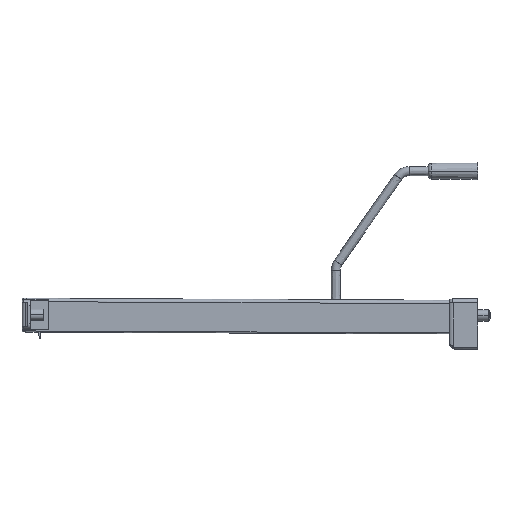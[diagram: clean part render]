
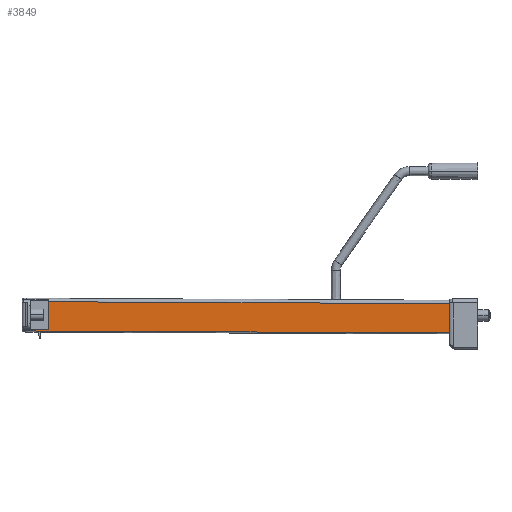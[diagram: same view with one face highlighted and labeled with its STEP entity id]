
A CAD part, left-side view. The second image highlights one B-rep face of the part: STEP entity #3849.
In plain terms, the highlighted planar face has unit normal (-1, 0, 0).
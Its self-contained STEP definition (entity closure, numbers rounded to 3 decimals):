
#776 = PLANE ( 'NONE',  #2564 ) ;
#778 = CARTESIAN_POINT ( 'NONE',  ( -5.25, 434.248, -13.647 ) ) ;
#780 = DIRECTION ( 'NONE',  ( 1., 0., 0. ) ) ;
#781 = DIRECTION ( 'NONE',  ( 0., 0., 1. ) ) ;
#1230 = LINE ( 'NONE', #2877, #1231 ) ;
#1231 = VECTOR ( 'NONE', #2878, 1000. ) ;
#1232 = LINE ( 'NONE', #2879, #1233 ) ;
#1233 = VECTOR ( 'NONE', #2880, 1000. ) ;
#1234 = LINE ( 'NONE', #2881, #1235 ) ;
#1235 = VECTOR ( 'NONE', #2882, 1000. ) ;
#1236 = LINE ( 'NONE', #2883, #1237 ) ;
#1237 = VECTOR ( 'NONE', #2884, 1000. ) ;
#1238 = LINE ( 'NONE', #2885, #1239 ) ;
#1239 = VECTOR ( 'NONE', #2886, 1000. ) ;
#1240 = LINE ( 'NONE', #2887, #1241 ) ;
#1241 = VECTOR ( 'NONE', #2888, 1000. ) ;
#1683 = FACE_OUTER_BOUND ( 'NONE', #5389, .T. ) ;
#2033 = CARTESIAN_POINT ( 'NONE',  ( -5.25, 380.9, 12.111 ) ) ;
#2040 = CARTESIAN_POINT ( 'NONE',  ( -5.25, 25., 10.5 ) ) ;
#2047 = CARTESIAN_POINT ( 'NONE',  ( -5.25, 25., -15.5 ) ) ;
#2093 = ORIENTED_EDGE ( 'NONE', *, *, #2148, .T. ) ;
#2094 = ORIENTED_EDGE ( 'NONE', *, *, #2147, .T. ) ;
#2095 = ORIENTED_EDGE ( 'NONE', *, *, #2146, .F. ) ;
#2096 = ORIENTED_EDGE ( 'NONE', *, *, #2145, .T. ) ;
#2097 = ORIENTED_EDGE ( 'NONE', *, *, #2144, .T. ) ;
#2098 = ORIENTED_EDGE ( 'NONE', *, *, #2143, .F. ) ;
#2143 = EDGE_CURVE ( 'NONE', #3615, #3622, #1230, .T. ) ;
#2144 = EDGE_CURVE ( 'NONE', #3629, #3622, #1232, .T. ) ;
#2145 = EDGE_CURVE ( 'NONE', #3120, #3629, #1234, .T. ) ;
#2146 = EDGE_CURVE ( 'NONE', #3120, #3135, #1236, .T. ) ;
#2147 = EDGE_CURVE ( 'NONE', #3661, #3135, #1238, .T. ) ;
#2148 = EDGE_CURVE ( 'NONE', #3615, #3661, #1240, .T. ) ;
#2564 = AXIS2_PLACEMENT_3D ( 'NONE', #778, #780, #781 ) ;
#2877 = CARTESIAN_POINT ( 'NONE',  ( -5.25, 434.13, 12.352 ) ) ;
#2878 = DIRECTION ( 'NONE',  ( 0., -1., -0.005 ) ) ;
#2879 = CARTESIAN_POINT ( 'NONE',  ( -5.25, 25., 15. ) ) ;
#2880 = DIRECTION ( 'NONE',  ( 0., 0., 1. ) ) ;
#2881 = CARTESIAN_POINT ( 'NONE',  ( -5.25, 434.248, -13.647 ) ) ;
#2882 = DIRECTION ( 'NONE',  ( 0., -1., -0.005 ) ) ;
#2883 = CARTESIAN_POINT ( 'NONE',  ( -5.25, 401.4, -13.647 ) ) ;
#2884 = DIRECTION ( 'NONE',  ( 0., 0., 1. ) ) ;
#2885 = CARTESIAN_POINT ( 'NONE',  ( -5.25, 380.9, -12.42 ) ) ;
#2886 = DIRECTION ( 'NONE',  ( 0., 1., 0. ) ) ;
#2887 = CARTESIAN_POINT ( 'NONE',  ( -5.25, 380.9, 13.6 ) ) ;
#2888 = DIRECTION ( 'NONE',  ( 0., 0., -1. ) ) ;
#3120 = VERTEX_POINT ( 'NONE', #4060 ) ;
#3135 = VERTEX_POINT ( 'NONE', #4075 ) ;
#3615 = VERTEX_POINT ( 'NONE', #2033 ) ;
#3622 = VERTEX_POINT ( 'NONE', #2040 ) ;
#3629 = VERTEX_POINT ( 'NONE', #2047 ) ;
#3661 = VERTEX_POINT ( 'NONE', #4885 ) ;
#3849 = ADVANCED_FACE ( 'NONE', ( #1683 ), #776, .F. ) ;
#4060 = CARTESIAN_POINT ( 'NONE',  ( -5.25, 401.4, -13.796 ) ) ;
#4075 = CARTESIAN_POINT ( 'NONE',  ( -5.25, 401.4, -12.42 ) ) ;
#4885 = CARTESIAN_POINT ( 'NONE',  ( -5.25, 380.9, -12.42 ) ) ;
#5389 = EDGE_LOOP ( 'NONE', ( #2093, #2094, #2095, #2096, #2097, #2098 ) ) ;
